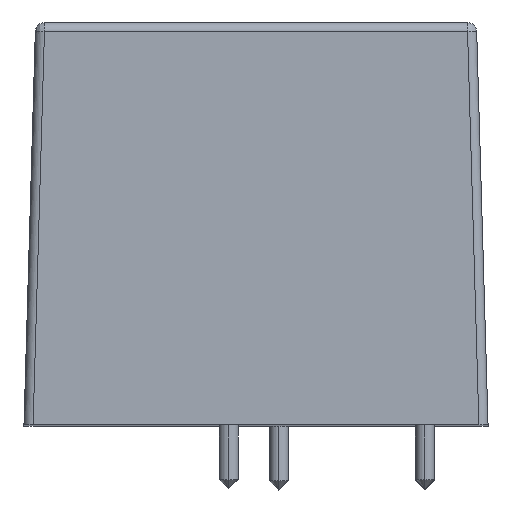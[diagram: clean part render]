
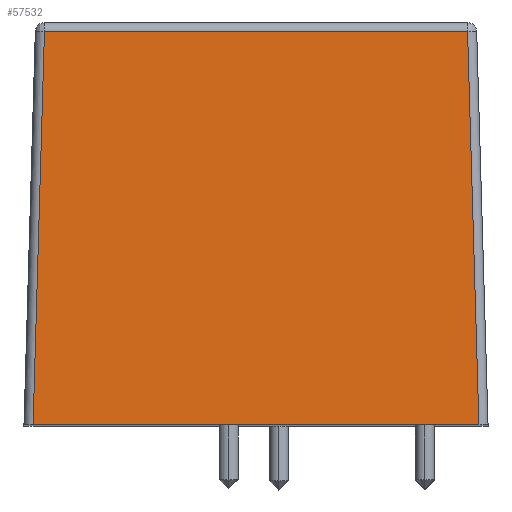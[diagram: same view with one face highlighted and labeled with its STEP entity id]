
A CAD part, top view. The second image highlights one B-rep face of the part: STEP entity #57532.
In plain terms, the highlighted planar face has unit normal (-0.001, 0.029, 1).
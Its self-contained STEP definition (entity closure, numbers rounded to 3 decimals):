
#2346 = LINE ( 'NONE', #49404, #25597 ) ;
#3840 = LINE ( 'NONE', #25472, #33686 ) ;
#4689 = VERTEX_POINT ( 'NONE', #58547 ) ;
#6174 = CARTESIAN_POINT ( 'NONE',  ( 24.476, 31.996, 21.928 ) ) ;
#10984 = ORIENTED_EDGE ( 'NONE', *, *, #39646, .F. ) ;
#11957 = EDGE_CURVE ( 'NONE', #43905, #4689, #3840, .T. ) ;
#13189 = CARTESIAN_POINT ( 'NONE',  ( 24.9, 0., 22.85 ) ) ;
#15213 = EDGE_LOOP ( 'NONE', ( #10984, #20068, #27124, #18268 ) ) ;
#16002 = AXIS2_PLACEMENT_3D ( 'NONE', #6174, #38913, #20001 ) ;
#16650 = VERTEX_POINT ( 'NONE', #51712 ) ;
#16740 = DIRECTION ( 'NONE',  ( 1., 0., 0.001 ) ) ;
#18268 = ORIENTED_EDGE ( 'NONE', *, *, #55881, .F. ) ;
#18918 = DIRECTION ( 'NONE',  ( 0.029, 0.999, -0.029 ) ) ;
#20001 = DIRECTION ( 'NONE',  ( 0., 1., -0.029 ) ) ;
#20068 = ORIENTED_EDGE ( 'NONE', *, *, #33137, .F. ) ;
#21958 = DIRECTION ( 'NONE',  ( -1., 0., -0.001 ) ) ;
#22522 = FACE_OUTER_BOUND ( 'NONE', #15213, .T. ) ;
#25051 = PLANE ( 'NONE',  #16002 ) ;
#25472 = CARTESIAN_POINT ( 'NONE',  ( 1.12, 21.514, 22.21 ) ) ;
#25597 = VECTOR ( 'NONE', #34849, 1000. ) ;
#27124 = ORIENTED_EDGE ( 'NONE', *, *, #11957, .F. ) ;
#28072 = VECTOR ( 'NONE', #18918, 1000. ) ;
#28262 = CARTESIAN_POINT ( 'NONE',  ( 0.499, 0., 22.829 ) ) ;
#33137 = EDGE_CURVE ( 'NONE', #4689, #60536, #2346, .T. ) ;
#33686 = VECTOR ( 'NONE', #16740, 1000. ) ;
#34849 = DIRECTION ( 'NONE',  ( 0.029, -0.999, 0.029 ) ) ;
#38913 = DIRECTION ( 'NONE',  ( 0.001, -0.029, -1. ) ) ;
#39646 = EDGE_CURVE ( 'NONE', #60536, #16650, #59431, .T. ) ;
#39711 = CARTESIAN_POINT ( 'NONE',  ( 24.9, 0., 22.85 ) ) ;
#42677 = LINE ( 'NONE', #28262, #28072 ) ;
#43905 = VERTEX_POINT ( 'NONE', #52202 ) ;
#49404 = CARTESIAN_POINT ( 'NONE',  ( 24.279, 21.514, 22.23 ) ) ;
#51712 = CARTESIAN_POINT ( 'NONE',  ( 0.499, 0., 22.829 ) ) ;
#52202 = CARTESIAN_POINT ( 'NONE',  ( 1.12, 21.514, 22.21 ) ) ;
#55881 = EDGE_CURVE ( 'NONE', #16650, #43905, #42677, .T. ) ;
#56494 = VECTOR ( 'NONE', #21958, 1000. ) ;
#57532 = ADVANCED_FACE ( 'NONE', ( #22522 ), #25051, .F. ) ;
#58547 = CARTESIAN_POINT ( 'NONE',  ( 24.279, 21.514, 22.23 ) ) ;
#59431 = LINE ( 'NONE', #13189, #56494 ) ;
#60536 = VERTEX_POINT ( 'NONE', #39711 ) ;
